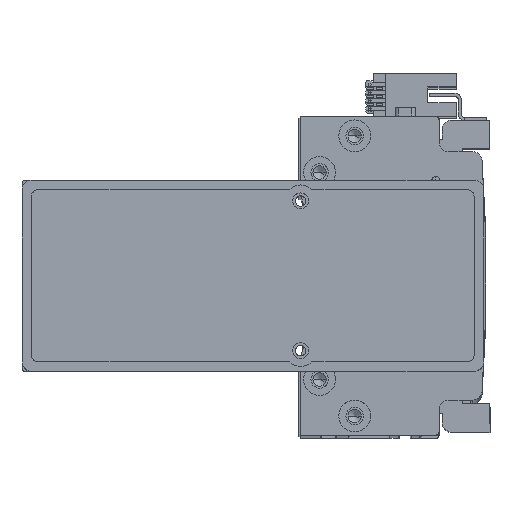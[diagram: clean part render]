
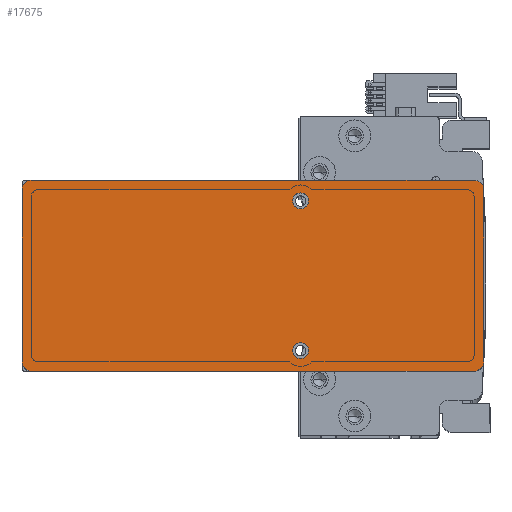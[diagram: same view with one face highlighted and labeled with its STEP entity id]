
A CAD part, top view. The second image highlights one B-rep face of the part: STEP entity #17675.
In plain terms, the highlighted planar face has unit normal (0, 0, 1) as drawn and (0, 0, -1) by its records, which use the part's own axes.
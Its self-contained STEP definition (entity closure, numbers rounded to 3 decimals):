
#816 = DIRECTION ( 'NONE',  ( 1., 0., 0. ) ) ;
#1253 = AXIS2_PLACEMENT_3D ( 'NONE', #31961, #11542, #35403 ) ;
#1800 = CIRCLE ( 'NONE', #9402, 3. ) ;
#2428 = AXIS2_PLACEMENT_3D ( 'NONE', #23870, #3399, #27258 ) ;
#2769 = EDGE_CURVE ( 'NONE', #21337, #36899, #31417, .T. ) ;
#2797 = VECTOR ( 'NONE', #6901, 1000. ) ;
#2844 = DIRECTION ( 'NONE',  ( -1., 0., 0. ) ) ;
#3399 = DIRECTION ( 'NONE',  ( 0., 0., -1. ) ) ;
#3479 = CARTESIAN_POINT ( 'NONE',  ( -72.5, -30., 0. ) ) ;
#4227 = ORIENTED_EDGE ( 'NONE', *, *, #2769, .F. ) ;
#4280 = DIRECTION ( 'NONE',  ( 0., 0., -1. ) ) ;
#4321 = EDGE_CURVE ( 'NONE', #39242, #9946, #17227, .T. ) ;
#6811 = CARTESIAN_POINT ( 'NONE',  ( 72.5, -30., 0. ) ) ;
#6901 = DIRECTION ( 'NONE',  ( 0., -1., 0. ) ) ;
#7135 = AXIS2_PLACEMENT_3D ( 'NONE', #31806, #11376, #35247 ) ;
#7903 = EDGE_CURVE ( 'NONE', #25211, #32867, #18015, .T. ) ;
#8352 = CARTESIAN_POINT ( 'NONE',  ( 12.5, 23.5, 0. ) ) ;
#9079 = ORIENTED_EDGE ( 'NONE', *, *, #24615, .F. ) ;
#9402 = AXIS2_PLACEMENT_3D ( 'NONE', #38279, #17808, #41702 ) ;
#9756 = EDGE_CURVE ( 'NONE', #36899, #21337, #32095, .T. ) ;
#9785 = CARTESIAN_POINT ( 'NONE',  ( -69.5, 27., 0. ) ) ;
#9946 = VERTEX_POINT ( 'NONE', #43342 ) ;
#10201 = VERTEX_POINT ( 'NONE', #41331 ) ;
#10956 = ORIENTED_EDGE ( 'NONE', *, *, #7903, .T. ) ;
#11376 = DIRECTION ( 'NONE',  ( 0., 0., -1. ) ) ;
#11542 = DIRECTION ( 'NONE',  ( 0., 0., 1. ) ) ;
#11591 = CARTESIAN_POINT ( 'NONE',  ( 15., -23.5, 0. ) ) ;
#11929 = LINE ( 'NONE', #3479, #2797 ) ;
#11965 = EDGE_LOOP ( 'NONE', ( #40228, #14532 ) ) ;
#12141 = CARTESIAN_POINT ( 'NONE',  ( 15., 23.5, 0. ) ) ;
#13239 = CARTESIAN_POINT ( 'NONE',  ( 15., -23.5, 0. ) ) ;
#13253 = ORIENTED_EDGE ( 'NONE', *, *, #15330, .T. ) ;
#13256 = DIRECTION ( 'NONE',  ( 1., 0., 0. ) ) ;
#14532 = ORIENTED_EDGE ( 'NONE', *, *, #28491, .F. ) ;
#15037 = DIRECTION ( 'NONE',  ( -1., 0., 0. ) ) ;
#15150 = CIRCLE ( 'NONE', #42135, 3. ) ;
#15330 = EDGE_CURVE ( 'NONE', #19628, #43586, #1800, .T. ) ;
#15583 = DIRECTION ( 'NONE',  ( -1., 0., 0. ) ) ;
#15728 = EDGE_CURVE ( 'NONE', #16172, #10201, #15150, .T. ) ;
#15885 = AXIS2_PLACEMENT_3D ( 'NONE', #13239, #37136, #16661 ) ;
#16172 = VERTEX_POINT ( 'NONE', #43097 ) ;
#16661 = DIRECTION ( 'NONE',  ( -1., 0., 0. ) ) ;
#17227 = CIRCLE ( 'NONE', #21152, 2.5 ) ;
#17675 = ADVANCED_FACE ( 'NONE', ( #27827, #18798, #36916 ), #35258, .F. ) ;
#17808 = DIRECTION ( 'NONE',  ( 0., 0., -1. ) ) ;
#18015 = CIRCLE ( 'NONE', #2428, 3. ) ;
#18798 = FACE_BOUND ( 'NONE', #26290, .T. ) ;
#18974 = VECTOR ( 'NONE', #816, 1000. ) ;
#19628 = VERTEX_POINT ( 'NONE', #36886 ) ;
#20854 = ORIENTED_EDGE ( 'NONE', *, *, #39121, .F. ) ;
#21152 = AXIS2_PLACEMENT_3D ( 'NONE', #24762, #4280, #28147 ) ;
#21249 = EDGE_CURVE ( 'NONE', #22863, #32789, #24274, .T. ) ;
#21337 = VERTEX_POINT ( 'NONE', #32247 ) ;
#21908 = CARTESIAN_POINT ( 'NONE',  ( -72.5, -27., 0. ) ) ;
#22863 = VERTEX_POINT ( 'NONE', #31122 ) ;
#23165 = EDGE_LOOP ( 'NONE', ( #9079, #13253, #35841, #10956, #20854, #35784, #32729, #37692 ) ) ;
#23849 = CARTESIAN_POINT ( 'NONE',  ( 12.5, -23.5, 0. ) ) ;
#23870 = CARTESIAN_POINT ( 'NONE',  ( -69.5, -27., 0. ) ) ;
#24274 = CIRCLE ( 'NONE', #7135, 3. ) ;
#24434 = LINE ( 'NONE', #26709, #32423 ) ;
#24604 = CARTESIAN_POINT ( 'NONE',  ( 72.5, 27., 0. ) ) ;
#24615 = EDGE_CURVE ( 'NONE', #19628, #32789, #35222, .T. ) ;
#24762 = CARTESIAN_POINT ( 'NONE',  ( 15., 23.5, 0. ) ) ;
#25211 = VERTEX_POINT ( 'NONE', #41441 ) ;
#26290 = EDGE_LOOP ( 'NONE', ( #29056, #4227 ) ) ;
#26697 = CIRCLE ( 'NONE', #32286, 2.5 ) ;
#26709 = CARTESIAN_POINT ( 'NONE',  ( 72.5, 30., 0. ) ) ;
#27258 = DIRECTION ( 'NONE',  ( 1., 0., 0. ) ) ;
#27827 = FACE_BOUND ( 'NONE', #11965, .T. ) ;
#28147 = DIRECTION ( 'NONE',  ( -1., 0., 0. ) ) ;
#28491 = EDGE_CURVE ( 'NONE', #9946, #39242, #26697, .T. ) ;
#29056 = ORIENTED_EDGE ( 'NONE', *, *, #9756, .F. ) ;
#31122 = CARTESIAN_POINT ( 'NONE',  ( 69.5, 30., 0. ) ) ;
#31417 = CIRCLE ( 'NONE', #15885, 2.5 ) ;
#31806 = CARTESIAN_POINT ( 'NONE',  ( 69.5, 27., 0. ) ) ;
#31961 = CARTESIAN_POINT ( 'NONE',  ( 0., 0., 0. ) ) ;
#32095 = CIRCLE ( 'NONE', #38080, 2.5 ) ;
#32247 = CARTESIAN_POINT ( 'NONE',  ( 17.5, -23.5, 0. ) ) ;
#32286 = AXIS2_PLACEMENT_3D ( 'NONE', #12141, #36014, #15583 ) ;
#32423 = VECTOR ( 'NONE', #2844, 1000. ) ;
#32729 = ORIENTED_EDGE ( 'NONE', *, *, #37884, .F. ) ;
#32789 = VERTEX_POINT ( 'NONE', #24604 ) ;
#32867 = VERTEX_POINT ( 'NONE', #21908 ) ;
#33688 = DIRECTION ( 'NONE',  ( 0., 0., -1. ) ) ;
#34135 = DIRECTION ( 'NONE',  ( 0., 1., 0. ) ) ;
#35222 = LINE ( 'NONE', #6811, #43231 ) ;
#35247 = DIRECTION ( 'NONE',  ( 1., 0., 0. ) ) ;
#35258 = PLANE ( 'NONE',  #1253 ) ;
#35403 = DIRECTION ( 'NONE',  ( 1., 0., 0. ) ) ;
#35453 = DIRECTION ( 'NONE',  ( 0., 0., -1. ) ) ;
#35784 = ORIENTED_EDGE ( 'NONE', *, *, #15728, .T. ) ;
#35841 = ORIENTED_EDGE ( 'NONE', *, *, #38668, .F. ) ;
#36014 = DIRECTION ( 'NONE',  ( 0., 0., -1. ) ) ;
#36886 = CARTESIAN_POINT ( 'NONE',  ( 72.5, -27., 0. ) ) ;
#36899 = VERTEX_POINT ( 'NONE', #23849 ) ;
#36916 = FACE_OUTER_BOUND ( 'NONE', #23165, .T. ) ;
#37093 = LINE ( 'NONE', #41787, #18974 ) ;
#37136 = DIRECTION ( 'NONE',  ( 0., 0., -1. ) ) ;
#37692 = ORIENTED_EDGE ( 'NONE', *, *, #21249, .T. ) ;
#37884 = EDGE_CURVE ( 'NONE', #22863, #10201, #24434, .T. ) ;
#38080 = AXIS2_PLACEMENT_3D ( 'NONE', #11591, #35453, #15037 ) ;
#38279 = CARTESIAN_POINT ( 'NONE',  ( 69.5, -27., 0. ) ) ;
#38668 = EDGE_CURVE ( 'NONE', #25211, #43586, #37093, .T. ) ;
#39121 = EDGE_CURVE ( 'NONE', #16172, #32867, #11929, .T. ) ;
#39242 = VERTEX_POINT ( 'NONE', #8352 ) ;
#40168 = CARTESIAN_POINT ( 'NONE',  ( 69.5, -30., 0. ) ) ;
#40228 = ORIENTED_EDGE ( 'NONE', *, *, #4321, .F. ) ;
#41331 = CARTESIAN_POINT ( 'NONE',  ( -69.5, 30., 0. ) ) ;
#41441 = CARTESIAN_POINT ( 'NONE',  ( -69.5, -30., 0. ) ) ;
#41702 = DIRECTION ( 'NONE',  ( 1., 0., 0. ) ) ;
#41787 = CARTESIAN_POINT ( 'NONE',  ( 72.5, -30., 0. ) ) ;
#42135 = AXIS2_PLACEMENT_3D ( 'NONE', #9785, #33688, #13256 ) ;
#43097 = CARTESIAN_POINT ( 'NONE',  ( -72.5, 27., 0. ) ) ;
#43231 = VECTOR ( 'NONE', #34135, 1000. ) ;
#43342 = CARTESIAN_POINT ( 'NONE',  ( 17.5, 23.5, 0. ) ) ;
#43586 = VERTEX_POINT ( 'NONE', #40168 ) ;
